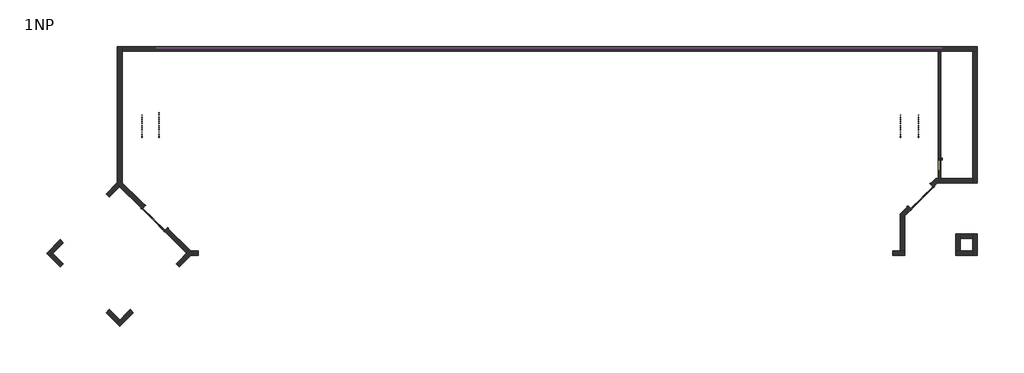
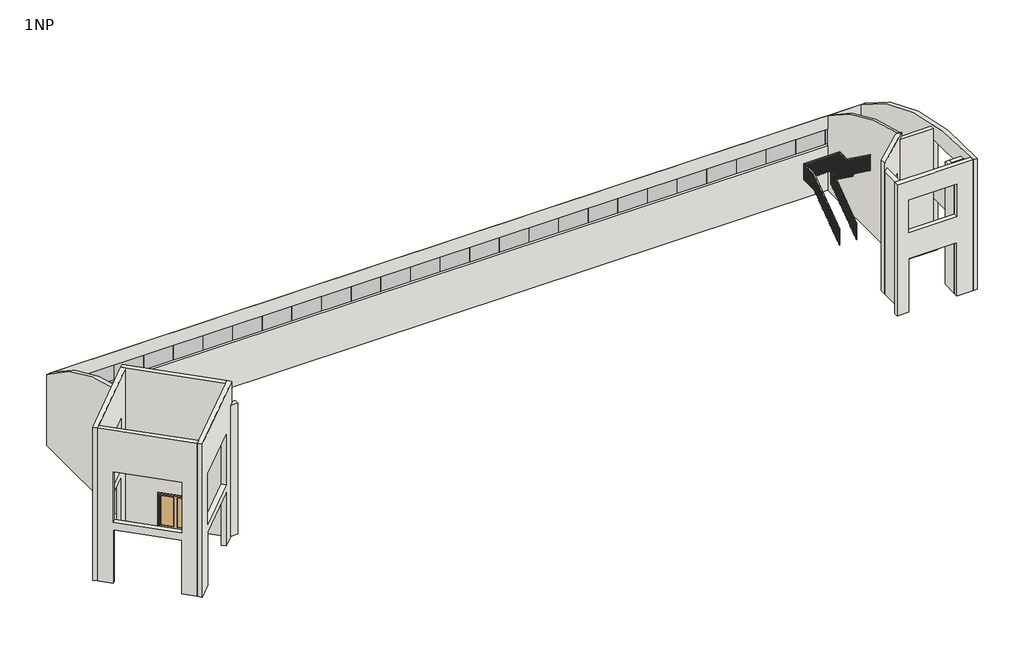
# One storey: 26 plates, 15 walls, 4 railings, 3 doors.
"""IFC4 building model written with IfcOpenShell, lengths in millimetres."""

from ifc_helpers import new_model, si_unit, point, frame, frame_2d, origin, place, context, project, spatial, polyline, circle_curve, ellipse_curve, trimmed, segment, composite_curve, outline, extrude, faceted_brep, transform, mapped, element, save
from ifc_brep_helpers import plane_surface, cylinder_surface, advanced_brep
from components import door_1800_x_1970mm_ce9160c6, door_1800_x_1970mm_3c2632e2, door_900_x_2000_4c66a93d, system_panel_glazed_e7f7cd54, system_panel_glazed_2bdfee25, railing_1100mm_7da75a1e, railing_1100mm_276dff7a, railing_1100mm_749a05fc, railing_1100mm_07c990a1

model = new_model("IFC4")

# Units and contexts
model_context = context("Model", 3, world=origin())
ifc_project = project(units=[si_unit("LENGTHUNIT", "METRE", prefix="MILLI")], contexts=[model_context])

# Site, building, storey
site = spatial("IfcSite", under=ifc_project)
building = spatial("IfcBuilding", under=site)
storey = spatial("IfcBuildingStorey", under=building, Name="1NP", Elevation=0.0)

# Doors
placement = place(None, origin())
door_1800_x_1970mm_shape = door_1800_x_1970mm_ce9160c6(model_context)
element("IfcDoor", 1, ObjectType="Dvoukridle prosklene : 1800 x 1970mm", at=placement, inside=storey, context=model_context, shape_type="MappedRepresentation", body=[
    mapped(door_1800_x_1970mm_shape, transform((-9492.0310093, -2706.151406, 0.0), x_axis=(-0.7071067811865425, 0.7071067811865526, 0.0), y_axis=(-0.7071067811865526, -0.7071067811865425, 0.0), z_axis=(0.0, 0.0, 1.0))),
])
door_1800_x_1970mm_2_shape = door_1800_x_1970mm_3c2632e2(model_context)
element("IfcDoor", 2, ObjectType="Dvoukridle prosklene : 1800 x 1970mm", at=placement, inside=storey, context=model_context, shape_type="MappedRepresentation", body=[
    mapped(door_1800_x_1970mm_2_shape, transform((35397.5898577, -1433.3591998, 0.0), x_axis=(0.7071067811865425, 0.7071067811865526, 0.0), y_axis=(-0.7071067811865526, 0.7071067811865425, 0.0), z_axis=(0.0, 0.0, 1.0))),
])
door_900_x_2000_shape = door_900_x_2000_4c66a93d(model_context)
element("IfcDoor", 3, ObjectType="Jednokridle oboustrana zaruben : 900 x 2000", at=placement, inside=storey, context=model_context, shape_type="MappedRepresentation", body=[
    mapped(door_900_x_2000_shape, transform((36489.1755273, 502.5551306, 0.0), x_axis=(0.0, 1.0, 0.0), y_axis=(-1.0, 0.0, 0.0), z_axis=(0.0, 0.0, 1.0))),
])

# Plates
system_panel_glazed_shape = system_panel_glazed_e7f7cd54(model_context)
element("IfcPlate", 4, ObjectType="System Panel : Glazed", at=placement, inside=storey, context=model_context, shape_type="MappedRepresentation", body=[
    mapped(system_panel_glazed_shape, transform((-8495.8244727, 7241.5551306, 2916.2475184), x_axis=(1.0, 0.0, 0.0), y_axis=(0.0, 1.0, 0.0), z_axis=(0.0, 0.0, 1.0))),
])
element("IfcPlate", 5, ObjectType="System Panel : Glazed", at=placement, inside=storey, context=model_context, shape_type="MappedRepresentation", body=[
    mapped(system_panel_glazed_shape, transform((-6665.8244727, 7241.5551306, 2916.2475184), x_axis=(1.0, 0.0, 0.0), y_axis=(0.0, 1.0, 0.0), z_axis=(0.0, 0.0, 1.0))),
])
element("IfcPlate", 6, ObjectType="System Panel : Glazed", at=placement, inside=storey, context=model_context, shape_type="MappedRepresentation", body=[
    mapped(system_panel_glazed_shape, transform((-4835.8244727, 7241.5551306, 2916.2475184), x_axis=(1.0, 0.0, 0.0), y_axis=(0.0, 1.0, 0.0), z_axis=(0.0, 0.0, 1.0))),
])
element("IfcPlate", 7, ObjectType="System Panel : Glazed", at=placement, inside=storey, context=model_context, shape_type="MappedRepresentation", body=[
    mapped(system_panel_glazed_shape, transform((-3005.8244727, 7241.5551306, 2916.2475184), x_axis=(1.0, 0.0, 0.0), y_axis=(0.0, 1.0, 0.0), z_axis=(0.0, 0.0, 1.0))),
])
element("IfcPlate", 8, ObjectType="System Panel : Glazed", at=placement, inside=storey, context=model_context, shape_type="MappedRepresentation", body=[
    mapped(system_panel_glazed_shape, transform((-1175.8244727, 7241.5551306, 2916.2475184), x_axis=(1.0, 0.0, 0.0), y_axis=(0.0, 1.0, 0.0), z_axis=(0.0, 0.0, 1.0))),
])
element("IfcPlate", 9, ObjectType="System Panel : Glazed", at=placement, inside=storey, context=model_context, shape_type="MappedRepresentation", body=[
    mapped(system_panel_glazed_shape, transform((654.1755273, 7241.5551306, 2916.2475184), x_axis=(1.0, 0.0, 0.0), y_axis=(0.0, 1.0, 0.0), z_axis=(0.0, 0.0, 1.0))),
])
element("IfcPlate", 10, ObjectType="System Panel : Glazed", at=placement, inside=storey, context=model_context, shape_type="MappedRepresentation", body=[
    mapped(system_panel_glazed_shape, transform((2484.1755273, 7241.5551306, 2916.2475184), x_axis=(1.0, 0.0, 0.0), y_axis=(0.0, 1.0, 0.0), z_axis=(0.0, 0.0, 1.0))),
])
element("IfcPlate", 11, ObjectType="System Panel : Glazed", at=placement, inside=storey, context=model_context, shape_type="MappedRepresentation", body=[
    mapped(system_panel_glazed_shape, transform((4314.1755273, 7241.5551306, 2916.2475184), x_axis=(1.0, 0.0, 0.0), y_axis=(0.0, 1.0, 0.0), z_axis=(0.0, 0.0, 1.0))),
])
element("IfcPlate", 12, ObjectType="System Panel : Glazed", at=placement, inside=storey, context=model_context, shape_type="MappedRepresentation", body=[
    mapped(system_panel_glazed_shape, transform((6144.1755273, 7241.5551306, 2916.2475184), x_axis=(1.0, 0.0, 0.0), y_axis=(0.0, 1.0, 0.0), z_axis=(0.0, 0.0, 1.0))),
])
element("IfcPlate", 13, ObjectType="System Panel : Glazed", at=placement, inside=storey, context=model_context, shape_type="MappedRepresentation", body=[
    mapped(system_panel_glazed_shape, transform((7974.1755273, 7241.5551306, 2916.2475184), x_axis=(1.0, 0.0, 0.0), y_axis=(0.0, 1.0, 0.0), z_axis=(0.0, 0.0, 1.0))),
])
element("IfcPlate", 14, ObjectType="System Panel : Glazed", at=placement, inside=storey, context=model_context, shape_type="MappedRepresentation", body=[
    mapped(system_panel_glazed_shape, transform((9804.1755273, 7241.5551306, 2916.2475184), x_axis=(1.0, 0.0, 0.0), y_axis=(0.0, 1.0, 0.0), z_axis=(0.0, 0.0, 1.0))),
])
element("IfcPlate", 15, ObjectType="System Panel : Glazed", at=placement, inside=storey, context=model_context, shape_type="MappedRepresentation", body=[
    mapped(system_panel_glazed_shape, transform((11634.1755273, 7241.5551306, 2916.2475184), x_axis=(1.0, 0.0, 0.0), y_axis=(0.0, 1.0, 0.0), z_axis=(0.0, 0.0, 1.0))),
])
element("IfcPlate", 16, ObjectType="System Panel : Glazed", at=placement, inside=storey, context=model_context, shape_type="MappedRepresentation", body=[
    mapped(system_panel_glazed_shape, transform((13464.1755273, 7241.5551306, 2916.2475184), x_axis=(1.0, 0.0, 0.0), y_axis=(0.0, 1.0, 0.0), z_axis=(0.0, 0.0, 1.0))),
])
element("IfcPlate", 17, ObjectType="System Panel : Glazed", at=placement, inside=storey, context=model_context, shape_type="MappedRepresentation", body=[
    mapped(system_panel_glazed_shape, transform((15294.1755273, 7241.5551306, 2916.2475184), x_axis=(1.0, 0.0, 0.0), y_axis=(0.0, 1.0, 0.0), z_axis=(0.0, 0.0, 1.0))),
])
element("IfcPlate", 18, ObjectType="System Panel : Glazed", at=placement, inside=storey, context=model_context, shape_type="MappedRepresentation", body=[
    mapped(system_panel_glazed_shape, transform((17124.1755273, 7241.5551306, 2916.2475184), x_axis=(1.0, 0.0, 0.0), y_axis=(0.0, 1.0, 0.0), z_axis=(0.0, 0.0, 1.0))),
])
element("IfcPlate", 19, ObjectType="System Panel : Glazed", at=placement, inside=storey, context=model_context, shape_type="MappedRepresentation", body=[
    mapped(system_panel_glazed_shape, transform((18954.1755273, 7241.5551306, 2916.2475184), x_axis=(1.0, 0.0, 0.0), y_axis=(0.0, 1.0, 0.0), z_axis=(0.0, 0.0, 1.0))),
])
element("IfcPlate", 20, ObjectType="System Panel : Glazed", at=placement, inside=storey, context=model_context, shape_type="MappedRepresentation", body=[
    mapped(system_panel_glazed_shape, transform((20784.1755273, 7241.5551306, 2916.2475184), x_axis=(1.0, 0.0, 0.0), y_axis=(0.0, 1.0, 0.0), z_axis=(0.0, 0.0, 1.0))),
])
element("IfcPlate", 21, ObjectType="System Panel : Glazed", at=placement, inside=storey, context=model_context, shape_type="MappedRepresentation", body=[
    mapped(system_panel_glazed_shape, transform((22614.1755273, 7241.5551306, 2916.2475184), x_axis=(1.0, 0.0, 0.0), y_axis=(0.0, 1.0, 0.0), z_axis=(0.0, 0.0, 1.0))),
])
element("IfcPlate", 22, ObjectType="System Panel : Glazed", at=placement, inside=storey, context=model_context, shape_type="MappedRepresentation", body=[
    mapped(system_panel_glazed_shape, transform((24444.1755273, 7241.5551306, 2916.2475184), x_axis=(1.0, 0.0, 0.0), y_axis=(0.0, 1.0, 0.0), z_axis=(0.0, 0.0, 1.0))),
])
element("IfcPlate", 23, ObjectType="System Panel : Glazed", at=placement, inside=storey, context=model_context, shape_type="MappedRepresentation", body=[
    mapped(system_panel_glazed_shape, transform((26274.1755273, 7241.5551306, 2916.2475184), x_axis=(1.0, 0.0, 0.0), y_axis=(0.0, 1.0, 0.0), z_axis=(0.0, 0.0, 1.0))),
])
element("IfcPlate", 24, ObjectType="System Panel : Glazed", at=placement, inside=storey, context=model_context, shape_type="MappedRepresentation", body=[
    mapped(system_panel_glazed_shape, transform((28104.1755273, 7241.5551306, 2916.2475184), x_axis=(1.0, 0.0, 0.0), y_axis=(0.0, 1.0, 0.0), z_axis=(0.0, 0.0, 1.0))),
])
element("IfcPlate", 25, ObjectType="System Panel : Glazed", at=placement, inside=storey, context=model_context, shape_type="MappedRepresentation", body=[
    mapped(system_panel_glazed_shape, transform((29934.1755273, 7241.5551306, 2916.2475184), x_axis=(1.0, 0.0, 0.0), y_axis=(0.0, 1.0, 0.0), z_axis=(0.0, 0.0, 1.0))),
])
element("IfcPlate", 26, ObjectType="System Panel : Glazed", at=placement, inside=storey, context=model_context, shape_type="MappedRepresentation", body=[
    mapped(system_panel_glazed_shape, transform((31764.1755273, 7241.5551306, 2916.2475184), x_axis=(1.0, 0.0, 0.0), y_axis=(0.0, 1.0, 0.0), z_axis=(0.0, 0.0, 1.0))),
])
element("IfcPlate", 27, ObjectType="System Panel : Glazed", at=placement, inside=storey, context=model_context, shape_type="MappedRepresentation", body=[
    mapped(system_panel_glazed_shape, transform((33594.1755273, 7241.5551306, 2916.2475184), x_axis=(1.0, 0.0, 0.0), y_axis=(0.0, 1.0, 0.0), z_axis=(0.0, 0.0, 1.0))),
])
element("IfcPlate", 28, ObjectType="System Panel : Glazed", at=placement, inside=storey, context=model_context, shape_type="MappedRepresentation", body=[
    mapped(system_panel_glazed_shape, transform((35424.1755273, 7241.5551306, 2916.2475184), x_axis=(1.0, 0.0, 0.0), y_axis=(0.0, 1.0, 0.0), z_axis=(0.0, 0.0, 1.0))),
])
system_panel_glazed_2_shape = system_panel_glazed_2bdfee25(model_context)
element("IfcPlate", 29, ObjectType="System Panel : Glazed", at=placement, inside=storey, context=model_context, shape_type="MappedRepresentation", body=[
    mapped(system_panel_glazed_2_shape, transform((36464.1755273, 7241.5551306, 2916.2475184), x_axis=(1.0, 0.0, 0.0), y_axis=(0.0, 1.0, 0.0), z_axis=(0.0, 0.0, 1.0))),
])

# Railings
railing_1100mm_shape = railing_1100mm_7da75a1e(model_context)
element("IfcRailing", 30, ObjectType="1100mm", at=placement, inside=storey, context=model_context, shape_type="MappedRepresentation", body=[
    mapped(railing_1100mm_shape, transform((0.0, 0.0, 0.0), x_axis=(1.0, 0.0, 0.0), y_axis=(0.0, 1.0, 0.0), z_axis=(0.0, 0.0, 1.0))),
])
railing_1100mm_2_shape = railing_1100mm_276dff7a(model_context)
element("IfcRailing", 31, ObjectType="1100mm", at=placement, inside=storey, context=model_context, shape_type="MappedRepresentation", body=[
    mapped(railing_1100mm_2_shape, transform((0.0, 0.0, 0.0), x_axis=(1.0, 0.0, 0.0), y_axis=(0.0, 1.0, 0.0), z_axis=(0.0, 0.0, 1.0))),
])
railing_1100mm_3_shape = railing_1100mm_749a05fc(model_context)
element("IfcRailing", 32, ObjectType="1100mm", at=placement, inside=storey, context=model_context, shape_type="MappedRepresentation", body=[
    mapped(railing_1100mm_3_shape, transform((0.0, 0.0, 0.0), x_axis=(1.0, 0.0, 0.0), y_axis=(0.0, 1.0, 0.0), z_axis=(0.0, 0.0, 1.0))),
])
railing_1100mm_4_shape = railing_1100mm_07c990a1(model_context)
element("IfcRailing", 33, ObjectType="1100mm", at=placement, inside=storey, context=model_context, shape_type="MappedRepresentation", body=[
    mapped(railing_1100mm_4_shape, transform((0.0, 0.0, 0.0), x_axis=(1.0, 0.0, 0.0), y_axis=(0.0, 1.0, 0.0), z_axis=(0.0, 0.0, 1.0))),
])

# Walls
element("IfcWall", 34, ObjectType="Exterior - EIFS on Mtl. Stud", at=placement, inside=storey, context=model_context, shape_type="AdvancedBrep", body=[
    advanced_brep(
    [(-11410.8244727, 7108.0551306, 0.0), (36419.9255273, 7108.0551306, 0.0), (36558.4255273, 7108.0551306, 0.0), (38455.6755273, 7108.0551306, 0.0), (38722.6755273, 7108.0551306, 0.0), (38722.6755273, 7108.0551306, 4858.4183068), (38455.6755273, 7108.0551306, 4858.4183068), (36558.4255273, 7108.0551306, 4858.4183068), (36419.9255273, 7108.0551306, 4858.4183068), (-11410.8244727, 7108.0551306, 4858.4183068), (-9410.8244727, 7108.0551306, 2916.2475184), (-9410.8244727, 7108.0551306, 4000.0), (36589.1755273, 7108.0551306, 4000.0), (36589.1755273, 7108.0551306, 2916.2475184), (38722.6755273, 7375.0551306, 0.0), (-11410.8244727, 7375.0551306, 0.0), (-11410.8244727, 7375.0551306, 4647.9646014), (38722.6755273, 7375.0551306, 4647.9646014), (-9410.8244727, 7375.0551306, 4000.0), (-9410.8244727, 7375.0551306, 2916.2475184), (36589.1755273, 7375.0551306, 2916.2475184), (36589.1755273, 7375.0551306, 4000.0)],
    [
        (0, 1),
        (1, 2),
        (2, 3),
        (3, 4),
        (4, 5),
        (5, 6),
        (6, 7),
        (7, 8),
        (8, 9),
        (9, 0),
        (10, 11),
        (11, 12),
        (12, 13),
        (13, 10),
        (14, 15),
        (15, 16),
        (16, 17),
        (17, 14),
        (18, 19),
        (19, 20),
        (20, 21),
        (21, 18),
        (0, 15),
        (14, 4),
        (17, 5, circle_curve(frame((38722.6755273, -3782.5530793, -9232.9575956), z_axis=(1.0, 0.0, 0.0), x_axis=(0.0, -1.0, 0.0)), 17809.3296337)),
        (9, 16, circle_curve(frame((-11410.8244727, -3782.5530793, -9232.9575956), z_axis=(-1.0, 0.0, 0.0), x_axis=(0.0, -1.0, 0.0)), 17809.3296337)),
        (10, 19),
        (18, 11),
        (21, 12),
        (20, 13),
    ],
    [
        plane_surface(frame((-5544.3244727, 7108.0551306, 0.0), z_axis=(0.0, -1.0, 0.0), x_axis=(1.0, 0.0, 0.0))),
        plane_surface(frame((-5544.3244727, 7375.0551306, 0.0), z_axis=(0.0, 1.0, 0.0), x_axis=(-1.0, 0.0, 0.0))),
        plane_surface(frame((-11544.3244727, 7108.0551306, 0.0), z_axis=(0.0, 0.0, -1.0), x_axis=(0.0, 1.0, 0.0))),
        plane_surface(frame((38722.6755273, 5741.5551306, 0.0), z_axis=(1.0, 0.0, 0.0), x_axis=(0.0, 1.0, 0.0))),
        plane_surface(frame((-11410.8244727, -6258.4448694, 0.0), z_axis=(-1.0, 0.0, 0.0), x_axis=(0.0, 1.0, 0.0))),
        cylinder_surface(frame((39922.6755273, -3782.5530793, -9232.9575956), z_axis=(1.0, 0.0, 0.0), x_axis=(0.0, -1.0, 0.0)), 17809.3296337),
        plane_surface(frame((-9410.8244727, 7527.4551306, 2916.2475184), z_axis=(1.0, 0.0, 0.0), x_axis=(0.0, -1.0, 0.0))),
        plane_surface(frame((-9410.8244727, 7527.4551306, 4000.0), z_axis=(0.0, 0.0, -1.0), x_axis=(0.0, -1.0, 0.0))),
        plane_surface(frame((36589.1755273, 7527.4551306, 4000.0), z_axis=(-1.0, 0.0, 0.0), x_axis=(0.0, -1.0, 0.0))),
        plane_surface(frame((36589.1755273, 7527.4551306, 2916.2475184), z_axis=(0.0, 0.0, 1.0), x_axis=(0.0, -1.0, 0.0))),
    ],
    [
        (0, [[1, 2, 3, 4, 5, 6, 7, 8, 9, 10], [11, 12, 13, 14]]),
        (1, [[15, 16, 17, 18], [19, 20, 21, 22]]),
        (2, [[-4, -3, -2, -1, 23, -15, 24]]),
        (3, [[-5, -24, -18, 25]]),
        (4, [[-10, 26, -16, -23]]),
        (5, [[-9, -8, -7, -6, -25, -17, -26]]),
        (6, [[27, -19, 28, -11]]),
        (7, [[-28, -22, 29, -12]]),
        (8, [[-29, -21, 30, -13]]),
        (9, [[-27, -14, -30, -20]]),
    ],
),
])
element("IfcWall", 35, ObjectType="Exterior - EIFS on Mtl. Stud", at=placement, inside=storey, context=model_context, shape_type="AdvancedBrep", body=[
    advanced_brep(
    [(38455.6755273, 7108.0551306, 0.0), (38455.6755273, -374.9448694, 0.0), (38455.6755273, -641.9448694, 0.0), (38455.6755273, -641.9448694, 3500.0), (38455.6755273, -3624.9448694, 3500.0), (38455.6755273, -3624.9448694, 0.0), (38455.6755273, -3891.9448694, 0.0), (38455.6755273, -4624.9448694, 0.0), (38455.6755273, -4891.9448694, 0.0), (38455.6755273, -4891.9448694, 8541.7849302), (38455.6755273, -4624.9249558, 8556.4388364), (38455.6755273, 7108.0551306, 4858.4183068), (38455.6755273, -641.9448694, 5200.0), (38455.6755273, -641.9448694, 7300.0), (38455.6755273, -3624.9448694, 7300.0), (38455.6755273, -3624.9448694, 5200.0), (38722.6755273, 7108.0551306, 0.0), (38722.6755273, 7108.0551306, 4858.4183068), (38722.6755273, -4891.9448694, 8541.7849302), (38722.6755273, -4891.9448694, 0.0), (38722.6755273, -3624.9448694, 0.0), (38722.6755273, -3624.9448694, 3500.0), (38722.6755273, -641.9448694, 3500.0), (38722.6755273, -641.9448694, 0.0), (38722.6755273, -641.9448694, 5200.0), (38722.6755273, -3624.9448694, 5200.0), (38722.6755273, -3624.9448694, 7300.0), (38722.6755273, -641.9448694, 7300.0)],
    [
        (0, 1),
        (1, 2),
        (2, 3),
        (3, 4),
        (4, 5),
        (5, 6),
        (6, 7),
        (7, 8),
        (8, 9),
        (9, 10, circle_curve(frame((38455.6755273, -3782.5530793, -9232.9575956), z_axis=(-1.0, 0.0, 0.0), x_axis=(0.0, -1.0, 0.0)), 17809.3296337)),
        (10, 11, circle_curve(frame((38455.6755273, -3782.5530793, -9232.9575956), z_axis=(-1.0, 0.0, 0.0), x_axis=(0.0, -1.0, 0.0)), 17809.3294594)),
        (11, 0),
        (12, 13),
        (13, 14),
        (14, 15),
        (15, 12),
        (16, 17),
        (17, 18, circle_curve(frame((38722.6755273, -3782.5530793, -9232.9575956), z_axis=(1.0, 0.0, 0.0), x_axis=(0.0, -1.0, 0.0)), 17809.3296337)),
        (18, 19),
        (19, 20),
        (20, 21),
        (21, 22),
        (22, 23),
        (23, 16),
        (24, 25),
        (25, 26),
        (26, 27),
        (27, 24),
        (0, 16),
        (23, 2),
        (3, 22),
        (21, 4),
        (5, 20),
        (19, 8),
        (13, 27),
        (26, 14),
        (15, 25),
        (24, 12),
        (18, 9),
        (11, 17),
    ],
    [
        plane_surface(frame((38455.6755273, 5741.5551306, 0.0), z_axis=(-1.0, 0.0, 0.0), x_axis=(0.0, -1.0, 0.0))),
        plane_surface(frame((38722.6755273, 5741.5551306, 0.0), z_axis=(1.0, 0.0, 0.0), x_axis=(0.0, 1.0, 0.0))),
        plane_surface(frame((38455.6755273, 7241.5551306, 0.0), z_axis=(0.0, 0.0, -1.0), x_axis=(1.0, 0.0, 0.0))),
        plane_surface(frame((38455.6755273, -508.4448694, 3500.0), z_axis=(0.0, 0.0, -1.0), x_axis=(1.0, 0.0, 0.0))),
        plane_surface(frame((38455.6755273, -3758.4448694, 0.0), z_axis=(0.0, 0.0, -1.0), x_axis=(1.0, 0.0, 0.0))),
        plane_surface(frame((38455.6755273, -508.4448694, 7300.0), z_axis=(0.0, 0.0, -1.0), x_axis=(1.0, 0.0, 0.0))),
        plane_surface(frame((38455.6755273, -3758.4448694, 5200.0), z_axis=(0.0, 0.0, 1.0), x_axis=(1.0, 0.0, 0.0))),
        plane_surface(frame((12455.6755273, -4891.9448694, 0.0), z_axis=(0.0, -1.0, 0.0), x_axis=(1.0, 0.0, 0.0))),
        plane_surface(frame((-5544.3244727, 7108.0551306, 0.0), z_axis=(0.0, 1.0, 0.0), x_axis=(1.0, 0.0, 0.0))),
        plane_surface(frame((38455.6755273, -641.9448694, 0.0), z_axis=(0.0, -1.0, 0.0), x_axis=(1.0, 0.0, 0.0))),
        plane_surface(frame((37555.6755273, -3624.9448694, 0.0), z_axis=(0.0, 1.0, 0.0), x_axis=(-1.0, 0.0, 0.0))),
        cylinder_surface(frame((39922.6755273, -3782.5530793, -9232.9575956), z_axis=(1.0, 0.0, 0.0), x_axis=(0.0, -1.0, 0.0)), 17809.3296337),
    ],
    [
        (0, [[1, 2, 3, 4, 5, 6, 7, 8, 9, 10, 11, 12], [13, 14, 15, 16]]),
        (1, [[17, 18, 19, 20, 21, 22, 23, 24], [25, 26, 27, 28]]),
        (2, [[-2, -1, 29, -24, 30]]),
        (3, [[-4, 31, -22, 32]]),
        (4, [[-8, -7, -6, 33, -20, 34]]),
        (5, [[-14, 35, -27, 36]]),
        (6, [[-16, 37, -25, 38]]),
        (7, [[-9, -34, -19, 39]]),
        (8, [[-12, 40, -17, -29]]),
        (9, [[-3, -30, -23, -31]]),
        (9, [[-13, -38, -28, -35]]),
        (10, [[-5, -32, -21, -33]]),
        (10, [[-15, -36, -26, -37]]),
        (11, [[-11, -10, -39, -18, -40]]),
    ],
),
])
element("IfcWall", 36, ObjectType="Exterior - EIFS on Mtl. Stud", at=placement, inside=storey, context=model_context, shape_type="AdvancedBrep", body=[
    advanced_brep(
    [(38455.6755273, -4624.9448694, 0.0), (37722.6755273, -4624.9448694, 0.0), (37455.6755273, -4624.9448694, 0.0), (37455.6755273, -4624.9448694, 3500.0), (34472.6755273, -4624.9448694, 3500.0), (34472.6755273, -4624.9448694, 0.0), (34205.6755273, -4624.9448694, 0.0), (33755.6755273, -4624.9448694, 0.0), (33755.6755273, -4624.9448694, 8556.4380679), (38455.6755273, -4624.9448694, 8556.4380679), (37455.6755273, -4624.9448694, 7300.0), (34472.6755273, -4624.9448694, 7300.0), (34472.6755273, -4624.9448694, 5200.0), (37455.6755273, -4624.9448694, 5200.0), (38455.6755273, -4891.9448694, 0.0), (38455.6755273, -4891.9448694, 8541.7849302), (33755.6755273, -4891.9448694, 8541.7849302), (33755.6755273, -4891.9448694, 0.0), (34472.6755273, -4891.9448694, 0.0), (34472.6755273, -4891.9448694, 3500.0), (37455.6755273, -4891.9448694, 3500.0), (37455.6755273, -4891.9448694, 0.0), (37455.6755273, -4891.9448694, 7300.0), (37455.6755273, -4891.9448694, 5200.0), (34472.6755273, -4891.9448694, 5200.0), (34472.6755273, -4891.9448694, 7300.0)],
    [
        (0, 1),
        (1, 2),
        (2, 3),
        (3, 4),
        (4, 5),
        (5, 6),
        (6, 7),
        (7, 8),
        (8, 9),
        (9, 0),
        (10, 11),
        (11, 12),
        (12, 13),
        (13, 10),
        (14, 15),
        (15, 16),
        (16, 17),
        (17, 18),
        (18, 19),
        (19, 20),
        (20, 21),
        (21, 14),
        (22, 23),
        (23, 24),
        (24, 25),
        (25, 22),
        (0, 14),
        (21, 2),
        (3, 20),
        (19, 4),
        (18, 5),
        (17, 7),
        (16, 8, circle_curve(frame((33755.6755273, -3782.5530793, -9232.9575956), z_axis=(-1.0, 0.0, 0.0), x_axis=(0.0, -1.0, 0.0)), 17809.3296337)),
        (10, 22),
        (25, 11),
        (12, 24),
        (23, 13),
        (9, 15, circle_curve(frame((38455.6755273, -3782.5530793, -9232.9575956), z_axis=(1.0, 0.0, 0.0), x_axis=(0.0, -1.0, 0.0)), 17809.3296337)),
    ],
    [
        plane_surface(frame((12455.6755273, -4624.9448694, 0.0), z_axis=(0.0, 1.0, 0.0), x_axis=(-1.0, 0.0, 0.0))),
        plane_surface(frame((12455.6755273, -4891.9448694, 0.0), z_axis=(0.0, -1.0, 0.0), x_axis=(1.0, 0.0, 0.0))),
        plane_surface(frame((38589.1755273, -4624.9448694, 0.0), z_axis=(0.0, 0.0, -1.0), x_axis=(0.0, -1.0, 0.0))),
        plane_surface(frame((37589.1755273, -4624.9448694, 3500.0), z_axis=(0.0, 0.0, -1.0), x_axis=(0.0, -1.0, 0.0))),
        plane_surface(frame((34472.6755273, -4624.9448694, 3500.0), z_axis=(1.0, 0.0, 0.0), x_axis=(0.0, -1.0, 0.0))),
        plane_surface(frame((34472.6755273, -4624.9448694, 0.0), z_axis=(0.0, 0.0, -1.0), x_axis=(0.0, -1.0, 0.0))),
        plane_surface(frame((33755.6755273, -4624.9448694, 0.0), z_axis=(-1.0, 0.0, 0.0), x_axis=(0.0, -1.0, 0.0))),
        plane_surface(frame((37589.1755273, -4624.9448694, 7300.0), z_axis=(0.0, 0.0, -1.0), x_axis=(0.0, -1.0, 0.0))),
        plane_surface(frame((34339.1755273, -4624.9448694, 5200.0), z_axis=(0.0, 0.0, 1.0), x_axis=(0.0, -1.0, 0.0))),
        plane_surface(frame((38455.6755273, 5741.5551306, 0.0), z_axis=(1.0, 0.0, 0.0), x_axis=(0.0, -1.0, 0.0))),
        plane_surface(frame((34472.6755273, -4758.4448694, 0.0), z_axis=(1.0, 0.0, 0.0), x_axis=(0.0, 1.0, 0.0))),
        plane_surface(frame((37455.6755273, -4758.4448694, 0.0), z_axis=(-1.0, 0.0, 0.0), x_axis=(0.0, -1.0, 0.0))),
        cylinder_surface(frame((39922.6755273, -3782.5530793, -9232.9575956), z_axis=(1.0, 0.0, 0.0), x_axis=(0.0, -1.0, 0.0)), 17809.3296337),
    ],
    [
        (0, [[1, 2, 3, 4, 5, 6, 7, 8, 9, 10], [11, 12, 13, 14]]),
        (1, [[15, 16, 17, 18, 19, 20, 21, 22], [23, 24, 25, 26]]),
        (2, [[-2, -1, 27, -22, 28]]),
        (3, [[-4, 29, -20, 30]]),
        (4, [[-5, -30, -19, 31]]),
        (5, [[-7, -6, -31, -18, 32]]),
        (6, [[-8, -32, -17, 33]]),
        (7, [[-11, 34, -26, 35]]),
        (8, [[-13, 36, -24, 37]]),
        (9, [[-10, 38, -15, -27]]),
        (10, [[-12, -35, -25, -36]]),
        (11, [[-3, -28, -21, -29]]),
        (11, [[-14, -37, -23, -34]]),
        (12, [[-9, -33, -16, -38]]),
    ],
),
])
element("IfcWall", 37, ObjectType="Exterior - EIFS on Mtl. Stud", at=placement, inside=storey, context=model_context, shape_type="AdvancedBrep", body=[
    advanced_brep(
    [(-11410.8244727, -601.928028, 0.0), (-11410.8244727, 7108.0551306, 0.0), (-11410.8244727, 7375.0551306, 0.0), (-11410.8244727, 7375.0551306, 4647.9646014), (-11410.8244727, 7108.0445023, 4858.4264309), (-11410.8244727, -601.928028, 8290.0514578), (-11677.8244727, -334.928028, 0.0), (-11677.8244727, -334.928028, 8239.4808006), (-11677.8244727, 7375.0551306, 4647.9646014), (-11677.8244727, 7375.0551306, 0.0)],
    [
        (0, 1),
        (1, 2),
        (2, 3),
        (3, 4, circle_curve(frame((-11410.8244727, -3782.5530793, -9232.9575956), z_axis=(1.0, 0.0, 0.0), x_axis=(0.0, -1.0, 0.0)), 17809.3296337)),
        (4, 5, circle_curve(frame((-11410.8244727, -3782.5530793, -9232.9575956), z_axis=(1.0, 0.0, 0.0), x_axis=(0.0, -1.0, 0.0)), 17809.3295625)),
        (5, 0),
        (6, 7),
        (7, 8, circle_curve(frame((-11677.8244727, -3782.5530793, -9232.9575956), z_axis=(-1.0, 0.0, 0.0), x_axis=(0.0, -1.0, 0.0)), 17809.3296337)),
        (8, 9),
        (9, 6),
        (0, 6),
        (9, 2),
        (8, 3),
        (5, 7, ellipse_curve(frame((-8230.1994214, -3782.5530793, -9232.9575956), z_axis=(-0.7071067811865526, -0.7071067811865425, 0.0), x_axis=(0.7071067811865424, -0.7071067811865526, 0.0)), 25186.1955048, 17809.3296337)),
    ],
    [
        plane_surface(frame((-11410.8244727, -6258.4448694, 0.0), z_axis=(1.0, 0.0, 0.0), x_axis=(0.0, 1.0, 0.0))),
        plane_surface(frame((-11677.8244727, -6258.4448694, 0.0), z_axis=(-1.0, 0.0, 0.0), x_axis=(0.0, -1.0, 0.0))),
        plane_surface(frame((-11410.8244727, -657.2255385, 0.0), z_axis=(0.0, 0.0, -1.0), x_axis=(-1.0, 0.0, 0.0))),
        plane_surface(frame((-5544.3244727, 7375.0551306, 0.0), z_axis=(0.0, 1.0, 0.0), x_axis=(-1.0, 0.0, 0.0))),
        plane_surface(frame((-12510.5858892, 497.8333885, 0.0), z_axis=(-0.7071067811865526, -0.7071067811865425, 0.0), x_axis=(-0.7071067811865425, 0.7071067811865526, 0.0))),
        cylinder_surface(frame((39922.6755273, -3782.5530793, -9232.9575956), z_axis=(1.0, 0.0, 0.0), x_axis=(0.0, -1.0, 0.0)), 17809.3296337),
    ],
    [
        (0, [[1, 2, 3, 4, 5, 6]]),
        (1, [[7, 8, 9, 10]]),
        (2, [[-2, -1, 11, -10, 12]]),
        (3, [[-3, -12, -9, 13]]),
        (4, [[-6, 14, -7, -11]]),
        (5, [[-5, -4, -13, -8, -14]]),
    ],
),
])
element("IfcWall", 38, ObjectType="Exterior - EIFS on Mtl. Stud", at=placement, inside=storey, context=model_context, shape_type="AdvancedBrep", body=[
    advanced_brep(
    [(-6943.1051418, -4624.9448694, 0.0), (-7387.8076313, -4624.9448694, 0.0), (-7387.8076313, -4624.9448694, 8556.4380679), (-6943.1051418, -4624.9448694, 8556.4380679), (-6943.1051418, -4891.9448694, 0.0), (-6943.1051418, -4891.9448694, 8541.7849302), (-7387.8076313, -4891.9448694, 8541.7849302), (-7387.8076313, -4891.9448694, 0.0), (-7254.3076313, -4758.4448694, 0.0), (-7254.3076313, -4758.4448694, 8549.6141311)],
    [
        (0, 1),
        (1, 2),
        (2, 3),
        (3, 0),
        (4, 5),
        (5, 6),
        (6, 7),
        (7, 4),
        (0, 4),
        (7, 8),
        (8, 1),
        (3, 5, circle_curve(frame((-6943.1051418, -3782.5530793, -9232.9575956), z_axis=(1.0, 0.0, 0.0), x_axis=(0.0, -1.0, 0.0)), 17809.3296337)),
        (8, 9),
        (9, 2, ellipse_curve(frame((-8230.1994214, -3782.5530793, -9232.9575956), z_axis=(-0.7071067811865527, -0.7071067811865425, 0.0), x_axis=(0.7071067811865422, -0.7071067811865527, 0.0)), 25186.1955048, 17809.3296337)),
        (6, 9, ellipse_curve(frame((-6278.4158411, -3782.5530793, -9232.9575956), z_axis=(-0.7071067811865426, 0.7071067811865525, 0.0), x_axis=(0.7071067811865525, 0.7071067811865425, 0.0)), 25186.1955048, 17809.3296337)),
    ],
    [
        plane_surface(frame((12455.6755273, -4624.9448694, 0.0), z_axis=(0.0, 1.0, 0.0), x_axis=(-1.0, 0.0, 0.0))),
        plane_surface(frame((12455.6755273, -4891.9448694, 0.0), z_axis=(0.0, -1.0, 0.0), x_axis=(1.0, 0.0, 0.0))),
        plane_surface(frame((-6943.1051418, -4624.9448694, 0.0), z_axis=(0.0, 0.0, -1.0), x_axis=(0.0, -1.0, 0.0))),
        plane_surface(frame((-6943.1051418, -4624.9448694, 4000.0), z_axis=(1.0, 0.0, 0.0), x_axis=(0.0, -1.0, 0.0))),
        plane_surface(frame((-9352.1166743, -2660.6358263, -427.8219034), z_axis=(-0.7071067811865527, -0.7071067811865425, 0.0), x_axis=(0.7071067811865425, -0.7071067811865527, 0.0))),
        plane_surface(frame((-9352.1166743, -6856.2539125, -427.8219034), z_axis=(-0.7071067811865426, 0.7071067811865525, 0.0), x_axis=(-0.7071067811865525, -0.7071067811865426, 0.0))),
        cylinder_surface(frame((39922.6755273, -3782.5530793, -9232.9575956), z_axis=(1.0, 0.0, 0.0), x_axis=(0.0, -1.0, 0.0)), 17809.3296337),
    ],
    [
        (0, [[1, 2, 3, 4]]),
        (1, [[5, 6, 7, 8]]),
        (2, [[-1, 9, -8, 10, 11]]),
        (3, [[-4, 12, -5, -9]]),
        (4, [[-2, -11, 13, 14]]),
        (5, [[-10, -7, 15, -13]]),
        (6, [[-3, -14, -15, -6, -12]]),
    ],
),
])
element("IfcWall", 39, ObjectType="Exterior - EIFS on Mtl. Stud", at=placement, inside=storey, context=model_context, shape_type="Brep", body=[
    faceted_brep([(37722.6755273, -4624.9448694, 8000.0), (37722.6755273, -4624.9448694, 0.0), (37722.6755273, -3891.9448694, 0.0), (37722.6755273, -3624.9448694, 0.0), (37722.6755273, -3624.9448694, 8000.0), (37722.6755273, -3891.9448694, 8000.0), (37455.6755273, -4624.9448694, 0.0), (37455.6755273, -4624.9448694, 3500.0), (37455.6755273, -4624.9448694, 5200.0), (37455.6755273, -4624.9448694, 7300.0), (37455.6755273, -4624.9448694, 8000.0), (37455.6755273, -3624.9448694, 8000.0), (37455.6755273, -3624.9448694, 0.0)], [[[0, 1, 2, 3, 4, 5]], [[6, 7, 8, 9, 10, 11, 12]], [[3, 2, 1, 6, 12]], [[0, 5, 4, 11, 10]], [[4, 3, 12, 11]], [[0, 10, 9, 8, 7, 6, 1]]]),
])
element("IfcWall", 40, ObjectType="Exterior - EIFS on Mtl. Stud", at=placement, inside=storey, context=model_context, shape_type="Brep", body=[
    faceted_brep([(37722.6755273, -3891.9448694, 0.0), (38455.6755273, -3891.9448694, 0.0), (38455.6755273, -3891.9448694, 8000.0), (37722.6755273, -3891.9448694, 8000.0), (37722.6755273, -3624.9448694, 0.0), (37722.6755273, -3624.9448694, 8000.0), (38455.6755273, -3624.9448694, 8000.0), (38455.6755273, -3624.9448694, 7300.0), (38455.6755273, -3624.9448694, 5200.0), (38455.6755273, -3624.9448694, 3500.0), (38455.6755273, -3624.9448694, 0.0)], [[[0, 1, 2, 3]], [[4, 5, 6, 7, 8, 9, 10]], [[1, 0, 4, 10]], [[3, 2, 6, 5]], [[0, 3, 5, 4]], [[1, 10, 9, 8, 7, 6, 2]]]),
])
element("IfcWall", 41, ObjectType="Exterior - EIFS on Mtl. Stud", at=placement, inside=storey, context=model_context, shape_type="AdvancedBrep", body=[
    advanced_brep(
    [(36270.5742736, -374.9448694, 0.0), (35951.8776052, -693.6415378, 0.0), (35951.8776052, -693.6415378, 2134.0), (34657.8721956, -1987.6469473, 2134.0), (34657.8721956, -1987.6469473, 0.0), (34205.6755273, -2439.8436157, 0.0), (34205.6755273, -2439.8436157, 8525.6840557), (36270.5742736, -374.9448694, 8247.3292525), (35823.8290879, -821.6900551, 4000.0), (35823.8290879, -821.6900551, 6134.0), (34529.8236783, -2115.6954646, 6134.0), (34529.8236783, -2115.6954646, 4000.0), (36140.6751158, -882.4390484, 2134.0), (36140.6751158, -882.4390484, 0.0), (36381.1692947, -641.9448694, 0.0), (36648.1692947, -374.9448694, 0.0), (36648.1692947, -374.9448694, 8000.0), (36648.1692947, -374.9448694, 8247.3292525), (34205.6755273, -2817.4386368, 8550.2023068), (34205.6755273, -2817.4386368, 8000.0), (34205.6755273, -2817.4386368, 0.0), (34472.6755273, -2550.4386368, 0.0), (34846.6697062, -2176.4444579, 0.0), (34846.6697062, -2176.4444579, 2134.0), (36012.6265985, -1010.4875656, 4000.0), (34718.6211889, -2304.4929752, 4000.0), (34718.6211889, -2304.4929752, 6134.0), (36012.6265985, -1010.4875656, 6134.0), (36419.9255273, -374.9448694, 0.0), (36558.4255273, -374.9448694, 0.0), (36419.9255273, -374.9448694, 8247.3292525), (36558.4255273, -374.9448694, 8247.3292525)],
    [
        (0, 1),
        (1, 2),
        (2, 3),
        (3, 4),
        (4, 5),
        (5, 6),
        (6, 7, ellipse_curve(frame((32862.9660637, -3782.5530793, -9232.9575956), z_axis=(-0.7071067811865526, 0.7071067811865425, 0.0), x_axis=(0.7071067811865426, 0.7071067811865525, 0.0)), 25186.1955048, 17809.3296337)),
        (7, 0),
        (8, 9),
        (9, 10),
        (10, 11),
        (11, 8),
        (12, 13),
        (13, 14),
        (14, 15),
        (15, 16),
        (16, 17),
        (17, 18, ellipse_curve(frame((33240.5610849, -3782.5530793, -9232.9575956), z_axis=(0.7071067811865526, -0.7071067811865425, 0.0), x_axis=(0.7071067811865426, 0.7071067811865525, 0.0)), 25186.1955048, 17809.3296337)),
        (18, 19),
        (19, 20),
        (20, 21),
        (21, 22),
        (22, 23),
        (23, 12),
        (24, 25),
        (25, 26),
        (26, 27),
        (27, 24),
        (13, 1),
        (0, 28),
        (28, 29),
        (29, 15),
        (20, 5),
        (4, 22),
        (7, 30),
        (30, 31),
        (31, 17),
        (18, 6, circle_curve(frame((34205.6755273, -3782.5530793, -9232.9575956), z_axis=(-1.0, 0.0, 0.0), x_axis=(0.0, -1.0, 0.0)), 17809.3296337)),
        (12, 2),
        (23, 3),
        (24, 8),
        (11, 25),
        (10, 26),
        (9, 27),
    ],
    [
        plane_surface(frame((38416.1447376, 1770.6255947, 0.0), z_axis=(-0.7071067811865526, 0.7071067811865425, 0.0), x_axis=(-0.7071067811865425, -0.7071067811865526, 0.0))),
        plane_surface(frame((38604.9422482, 1581.8280841, 0.0), z_axis=(0.7071067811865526, -0.7071067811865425, 0.0), x_axis=(0.7071067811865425, 0.7071067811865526, 0.0))),
        plane_surface(frame((36231.4730288, -414.0461141, 0.0), z_axis=(0.0, 0.0, -1.0), x_axis=(0.7071067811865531, -0.707106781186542, 0.0))),
        plane_surface(frame((38455.6755273, -374.9448694, 0.0), z_axis=(0.0, 1.0, 0.0), x_axis=(-1.0, 0.0, 0.0))),
        plane_surface(frame((34205.6755273, -4758.4448694, 0.0), z_axis=(-1.0, 0.0, 0.0), x_axis=(0.0, -1.0, 0.0))),
        cylinder_surface(frame((39922.6755273, -3782.5530793, -9232.9575956), z_axis=(1.0, 0.0, 0.0), x_axis=(0.0, -1.0, 0.0)), 17809.3296337),
        plane_surface(frame((35951.8776052, -693.6415378, 0.0), z_axis=(-0.7071067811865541, -0.7071067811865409, 0.0), x_axis=(0.7071067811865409, -0.7071067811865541, 0.0))),
        plane_surface(frame((35951.8776052, -693.6415378, 2134.0), z_axis=(0.0, 0.0, -1.0), x_axis=(0.7071067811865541, -0.7071067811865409, 0.0))),
        plane_surface(frame((34657.8721956, -1987.6469473, 2134.0), z_axis=(0.707106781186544, 0.7071067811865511, 0.0), x_axis=(0.7071067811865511, -0.707106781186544, 0.0))),
        plane_surface(frame((36012.6265985, -1010.4875656, 4000.0), z_axis=(0.0, 0.0, 1.0), x_axis=(-0.7071067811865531, 0.707106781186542, 0.0))),
        plane_surface(frame((34718.6211889, -2304.4929752, 4000.0), z_axis=(0.707106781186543, 0.7071067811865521, 0.0), x_axis=(-0.7071067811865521, 0.707106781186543, 0.0))),
        plane_surface(frame((34718.6211889, -2304.4929752, 6134.0), z_axis=(0.0, 0.0, -1.0000000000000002), x_axis=(-0.707106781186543, 0.7071067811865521, 0.0))),
        plane_surface(frame((36012.6265985, -1010.4875656, 6134.0), z_axis=(-0.707106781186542, -0.7071067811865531, 0.0), x_axis=(-0.7071067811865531, 0.707106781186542, 0.0))),
    ],
    [
        (0, [[1, 2, 3, 4, 5, 6, 7, 8], [9, 10, 11, 12]]),
        (1, [[13, 14, 15, 16, 17, 18, 19, 20, 21, 22, 23, 24], [25, 26, 27, 28]]),
        (2, [[-15, -14, 29, -1, 30, 31, 32]]),
        (2, [[-22, -21, 33, -5, 34]]),
        (3, [[-8, 35, 36, 37, -17, -16, -32, -31, -30]]),
        (4, [[-6, -33, -20, -19, 38]]),
        (5, [[-7, -38, -18, -37, -36, -35]]),
        (6, [[-2, -29, -13, 39]]),
        (7, [[-3, -39, -24, 40]]),
        (8, [[-4, -40, -23, -34]]),
        (9, [[-25, 41, -12, 42]]),
        (10, [[-26, -42, -11, 43]]),
        (11, [[-27, -43, -10, 44]]),
        (12, [[-28, -44, -9, -41]]),
    ],
),
])
element("IfcWall", 42, ObjectType="Exterior - EIFS on Mtl. Stud", at=placement, inside=storey, context=model_context, shape_type="Brep", body=[
    faceted_brep([(38455.6755273, -374.9448694, 8000.0), (38455.6755273, -374.9448694, 0.0), (36648.1692947, -374.9448694, 0.0), (36648.1692947, -374.9448694, 8000.0), (38455.6755273, -641.9448694, 0.0), (38455.6755273, -641.9448694, 3500.0), (38455.6755273, -641.9448694, 5200.0), (38455.6755273, -641.9448694, 7300.0), (38455.6755273, -641.9448694, 8000.0), (36381.1692947, -641.9448694, 8000.0), (36381.1692947, -641.9448694, 0.0)], [[[0, 1, 2, 3]], [[4, 5, 6, 7, 8, 9, 10]], [[2, 1, 4, 10]], [[0, 3, 9, 8]], [[3, 2, 10, 9]], [[0, 8, 7, 6, 5, 4, 1]]]),
])
element("IfcWall", 43, ObjectType="Exterior - EIFS on Mtl. Stud", at=placement, inside=storey, context=model_context, shape_type="Brep", body=[
    faceted_brep([(34472.6755273, -4624.9448694, 8000.0), (34472.6755273, -4624.9448694, 7300.0), (34472.6755273, -4624.9448694, 5200.0), (34472.6755273, -4624.9448694, 3500.0), (34472.6755273, -4624.9448694, 0.0), (34472.6755273, -2550.4386368, 0.0), (34472.6755273, -2550.4386368, 8000.0), (34205.6755273, -4624.9448694, 0.0), (34205.6755273, -4624.9448694, 8000.0), (34205.6755273, -2817.4386368, 8000.0), (34205.6755273, -2817.4386368, 0.0)], [[[0, 1, 2, 3, 4, 5, 6]], [[7, 8, 9, 10]], [[5, 4, 7, 10]], [[0, 6, 9, 8]], [[6, 5, 10, 9]], [[0, 8, 7, 4, 3, 2, 1]]]),
])
element("IfcWall", 44, ObjectType="Exterior - EIFS on Mtl. Stud 2side", at=placement, inside=storey, context=model_context, shape_type="Brep", body=[
    faceted_brep([(-7443.1051418, -4569.6473588, 10000.0), (-7443.1051418, -4569.6473588, 0.0), (-7631.9026524, -4758.4448694, 0.0), (-8244.6106783, -5371.1528953, 0.0), (-8244.6106783, -5371.1528953, 3500.0), (-10931.6164468, -8058.1586638, 3500.0), (-10931.6164468, -8058.1586638, 0.0), (-11544.3244727, -8670.8666897, 0.0), (-11733.1219833, -8859.6642003, 0.0), (-11733.1219833, -8859.6642003, 10000.0), (-11544.3244727, -8670.8666897, 10000.0), (-7631.9026524, -4758.4448694, 10000.0), (-8244.6106783, -5371.1528953, 4000.0), (-8244.6106783, -5371.1528953, 7300.0), (-10931.6164468, -8058.1586638, 7300.0), (-10931.6164468, -8058.1586638, 4000.0), (-7254.3076313, -4758.4448694, 0.0), (-7254.3076313, -4758.4448694, 8549.6141311), (-7254.3076313, -4758.4448694, 10000.0), (-11544.3244727, -9048.4617109, 10000.0), (-11544.3244727, -9048.4617109, 0.0), (-10742.8189362, -8246.9561744, 0.0), (-10742.8189362, -8246.9561744, 3500.0), (-8055.8131677, -5559.9504059, 3500.0), (-8055.8131677, -5559.9504059, 0.0), (-7387.8076313, -4891.9448694, 0.0), (-8055.8131677, -5559.9504059, 4000.0), (-10742.8189362, -8246.9561744, 4000.0), (-10742.8189362, -8246.9561744, 7300.0), (-8055.8131677, -5559.9504059, 7300.0), (-7387.8076313, -4624.9448694, 0.0)], [[[0, 1, 2, 3, 4, 5, 6, 7, 8, 9, 10, 11], [12, 13, 14, 15]], [[16, 17, 18, 19, 20, 21, 22, 23, 24, 25], [26, 27, 28, 29]], [[3, 2, 1, 30, 16, 25, 24]], [[4, 3, 24, 23]], [[5, 4, 23, 22]], [[6, 5, 22, 21]], [[8, 7, 6, 21, 20]], [[0, 11, 10, 9, 19, 18]], [[13, 12, 26, 29]], [[14, 13, 29, 28]], [[15, 14, 28, 27]], [[12, 15, 27, 26]], [[0, 18, 17, 16, 30, 1]], [[9, 8, 20, 19]]]),
])
element("IfcWall", 45, ObjectType="Exterior - EIFS on Mtl. Stud 2side", at=placement, inside=storey, context=model_context, shape_type="Brep", body=[
    faceted_brep([(-7631.9026524, -4758.4448694, 10000.0), (-11544.3244727, -846.0230491, 10000.0), (-11733.1219833, -657.2255385, 10000.0), (-11733.1219833, -657.2255385, 8290.0514578), (-11677.8244727, -712.5230491, 8290.0514578), (-11677.8244727, -712.5230491, 0.0), (-11544.3244727, -846.0230491, 0.0), (-10235.1162674, -2155.2312545, 0.0), (-10235.1162674, -2155.2312545, 2134.0), (-8941.1108578, -3449.2366641, 2134.0), (-8941.1108578, -3449.2366641, 0.0), (-7631.9026524, -4758.4448694, 0.0), (-11544.3244727, -468.428028, 10000.0), (-7443.1051418, -4569.6473588, 10000.0), (-7443.1051418, -4569.6473588, 0.0), (-8752.3133472, -3260.4391535, 0.0), (-8752.3133472, -3260.4391535, 2134.0), (-10046.3187568, -1966.4337439, 2134.0), (-10046.3187568, -1966.4337439, 0.0), (-11410.8244727, -601.928028, 0.0), (-11677.8244727, -334.928028, 0.0), (-11677.8244727, -334.928028, 8239.4808006), (-11677.8244727, -334.928028, 8290.0514578), (-11544.3244727, -468.428028, 8290.0514578), (-11677.8244727, -601.928028, 0.0), (-11677.8244727, -601.928028, 8290.0514578)], [[[0, 1, 2, 3, 4, 5, 6, 7, 8, 9, 10, 11]], [[12, 13, 14, 15, 16, 17, 18, 19, 20, 21, 22, 23]], [[5, 24, 20, 19, 18, 7, 6]], [[14, 11, 10, 15]], [[2, 1, 0, 13, 12]], [[4, 3, 25]], [[5, 4, 25, 22, 21, 20, 24]], [[3, 2, 12, 23, 25]], [[23, 22, 25]], [[11, 14, 13, 0]], [[8, 7, 18, 17]], [[9, 8, 17, 16]], [[10, 9, 16, 15]]]),
])
element("IfcWall", 46, ObjectType="Exterior - EIFS on Mtl. Stud 2side", at=placement, inside=storey, context=model_context, shape_type="Brep", body=[
    faceted_brep([(-11677.8244727, -601.928028, 0.0), (-12345.8300092, -1269.9335644, 0.0), (-12345.8300092, -1269.9335644, 3500.0), (-15032.8357777, -3956.939333, 3500.0), (-15032.8357777, -3956.939333, 0.0), (-15834.3413142, -4758.4448694, 0.0), (-15834.3413142, -4758.4448694, 10000.0), (-11733.1219833, -657.2255385, 10000.0), (-11733.1219833, -657.2255385, 8290.0514578), (-11677.8244727, -601.928028, 8290.0514578), (-12345.8300092, -1269.9335644, 4000.0), (-12345.8300092, -1269.9335644, 7300.0), (-15032.8357777, -3956.939333, 7300.0), (-15032.8357777, -3956.939333, 4000.0), (-11544.3244727, -846.0230491, 0.0), (-11544.3244727, -846.0230491, 8290.0514578), (-11544.3244727, -846.0230491, 10000.0), (-15456.746293, -4758.4448694, 10000.0), (-15645.5438036, -4947.24238, 10000.0), (-15645.5438036, -4947.24238, 0.0), (-15456.746293, -4758.4448694, 0.0), (-14844.0382671, -4145.7368435, 0.0), (-14844.0382671, -4145.7368435, 3500.0), (-12157.0324986, -1458.731075, 3500.0), (-12157.0324986, -1458.731075, 0.0), (-12157.0324986, -1458.731075, 4000.0), (-14844.0382671, -4145.7368435, 4000.0), (-14844.0382671, -4145.7368435, 7300.0), (-12157.0324986, -1458.731075, 7300.0), (-11677.8244727, -712.5230491, 0.0), (-11677.8244727, -712.5230491, 8290.0514578)], [[[0, 1, 2, 3, 4, 5, 6, 7, 8, 9], [10, 11, 12, 13]], [[14, 15, 16, 17, 18, 19, 20, 21, 22, 23, 24], [25, 26, 27, 28]], [[1, 0, 29, 14, 24]], [[2, 1, 24, 23]], [[3, 2, 23, 22]], [[4, 3, 22, 21]], [[5, 4, 21, 20, 19]], [[7, 6, 18, 17, 16]], [[11, 10, 25, 28]], [[12, 11, 28, 27]], [[13, 12, 27, 26]], [[10, 13, 26, 25]], [[6, 5, 19, 18]], [[8, 30, 9]], [[0, 9, 30, 29]], [[30, 15, 14, 29]], [[8, 7, 16, 15, 30]]]),
])
element("IfcWall", 47, ObjectType="Exterior - EIFS on Mtl. Stud 2side", at=placement, inside=storey, context=model_context, shape_type="SweptSolid", body=[
    extrude(outline(polyline([(133.5, 0.0), (1000.0, 0.0), (1000.0, -3500.0), (4800.0, -3500.0), (4800.0, 0.0), (5666.5, 0.0), (5666.5, -10000.0), (133.5, -10000.0), (133.5, 0.0)]), holes=[polyline([(1000.0, -4000.0), (1000.0, -7300.0), (4800.0, -7300.0), (4800.0, -4000.0), (1000.0, -4000.0)])]), frame((-15739.9425589, -4852.8436247, 0.0), z_axis=(0.7071067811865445, 0.7071067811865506, 0.0), x_axis=(0.7071067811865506, -0.7071067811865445, 0.0)), (0.0, 0.0, 1.0), 267.0),
])
element("IfcWall", 48, ObjectType="Interior - 138mm Partition (1-hr)", at=placement, inside=storey, context=model_context, shape_type="SweptSolid", body=[
    extrude(outline(composite_curve([segment(polyline([(7108.0551306, 0.0), (932.5551306, 0.0), (932.5551306, 2050.0), (32.5551306, 2050.0), (32.5551306, 0.0), (-374.9448694, 0.0), (-374.9448694, 8247.3292525)]), True, "CONTINUOUS"), segment(trimmed(circle_curve(frame_2d((-3782.5530793, -9232.9575956)), 17809.3296337), [point((-374.9448694, 8247.3292525))], [point((7108.0551306, 4858.4183068))], False, "CARTESIAN"), True, "CONTINUOUS"), segment(polyline([(7108.0551306, 4858.4183068), (7108.0551306, 0.0)]), True, "CONTINUOUS")], self_intersect=False)), frame((36419.9255273, 0.0, 0.0), z_axis=(1.0, 0.0, 0.0), x_axis=(0.0, 1.0, 0.0)), (0.0, 0.0, 1.0), 138.5),
])

save(model, "model.ifc")
